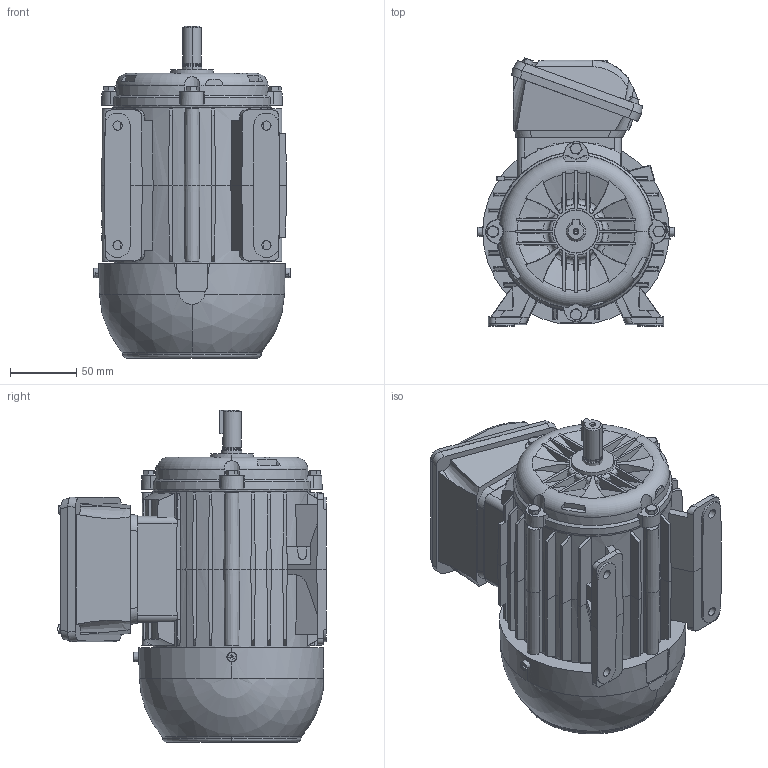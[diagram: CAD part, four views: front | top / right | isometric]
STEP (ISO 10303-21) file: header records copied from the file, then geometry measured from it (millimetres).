
FILE_DESCRIPTION (( 'STEP AP203' ), '1' );
FILE_NAME ('71_TOP.STEP', '2013-10-31T13:21:51', ( 'Support' ), ( '' ), 'SwSTEP 2.0', 'SolidWorks 2012', '' );
FILE_SCHEMA (( 'CONFIG_CONTROL_DESIGN' ));
Length unit declared in the file: millimetre
Products named in the file (1): 71_TOP
Bounding box: 147.9 x 201.98 x 250 mm (x, y, z)
Volume: 3286092.7 mm3; surface area: 295676.7 mm2
Topology: 17 solids, 21 shells, 1540 faces, 3924 edges, 2543 vertices
Faces by surface type: plane 1064, cone 230, cylinder 167, torus 48, bspline 29, sphere 2
Entity records: 49806 total; most frequent: CARTESIAN_POINT 14035, ORIENTED_EDGE 7844, DIRECTION 6688, EDGE_CURVE 3922, VERTEX_POINT 2543, LINE 2350, VECTOR 2350, AXIS2_PLACEMENT_3D 2169
